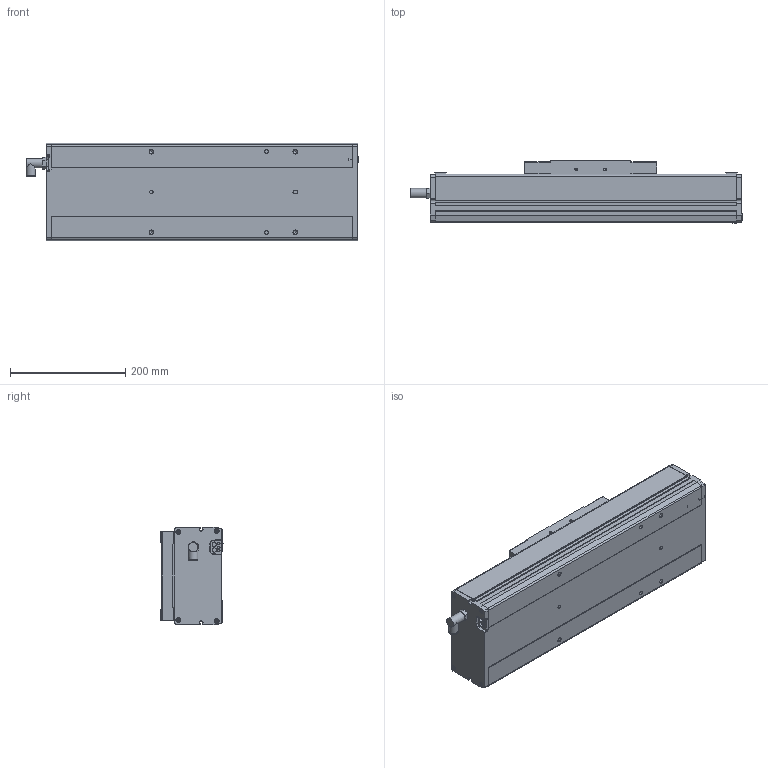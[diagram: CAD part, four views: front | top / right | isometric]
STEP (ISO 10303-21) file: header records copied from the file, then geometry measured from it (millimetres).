
FILE_DESCRIPTION(('Open CASCADE Model'),'2;1');
FILE_NAME('Open CASCADE Shape Model','2023-12-22T18:18:36',('Author'),( 'Open CASCADE'),'Open CASCADE STEP processor 7.6','Open CASCADE 7.6' ,'Unknown');
FILE_SCHEMA(('AUTOMOTIVE_DESIGN { 1 0 10303 214 1 1 1 1 }'));
Length unit declared in the file: millimetre
Products named in the file (10): Open CASCADE STEP translator 7.6 28; Open CASCADE STEP translator 7.6 28.1; Open CASCADE STEP translator 7.6 28.1.1; Open CASCADE STEP translator 7.6 28.1.2; Open CASCADE STEP translator 7.6 28.1.2.1; Open CASCADE STEP translator 7.6 28.1.2.2; Open CASCADE STEP translator 7.6 28.1.3; Open CASCADE STEP translator 7.6 28.1.3.1; Open CASCADE STEP translator 7.6 28.1.3.2; Open CASCADE STEP translator 7.6 28.1.4
Assembly tree (9 placements, depth 4):
  Open CASCADE STEP translator 7.6 28
    Open CASCADE STEP translator 7.6 28.1
      Open CASCADE STEP translator 7.6 28.1.1
      Open CASCADE STEP translator 7.6 28.1.2
        Open CASCADE STEP translator 7.6 28.1.2.1
        Open CASCADE STEP translator 7.6 28.1.2.2
      Open CASCADE STEP translator 7.6 28.1.3
        Open CASCADE STEP translator 7.6 28.1.3.1
        Open CASCADE STEP translator 7.6 28.1.3.2
      Open CASCADE STEP translator 7.6 28.1.4
Bounding box: 577 x 107.85 x 170 mm (x, y, z)
Volume: 8412642.8 mm3; surface area: 421232.5 mm2
Topology: 6 solids, 6 shells, 504 faces, 1233 edges, 804 vertices
Faces by surface type: plane 318, cylinder 142, cone 36, torus 8
Full cylindrical faces by diameter (mm): 4.134 x4, 6 x1, 6.647 x10, 7 x8, 7.53 x8, 7.6 x2, 8 x8, 8.6 x2, 10 x6, 11 x2, 14 x2, 16.5 x6
Entity records: 33921 total; most frequent: CARTESIAN_POINT 9074, DIRECTION 4654, LINE 2936, VECTOR 2936, ORIENTED_EDGE 2438, PCURVE 2438, DEFINITIONAL_REPRESENTATION 2438, EDGE_CURVE 1219
